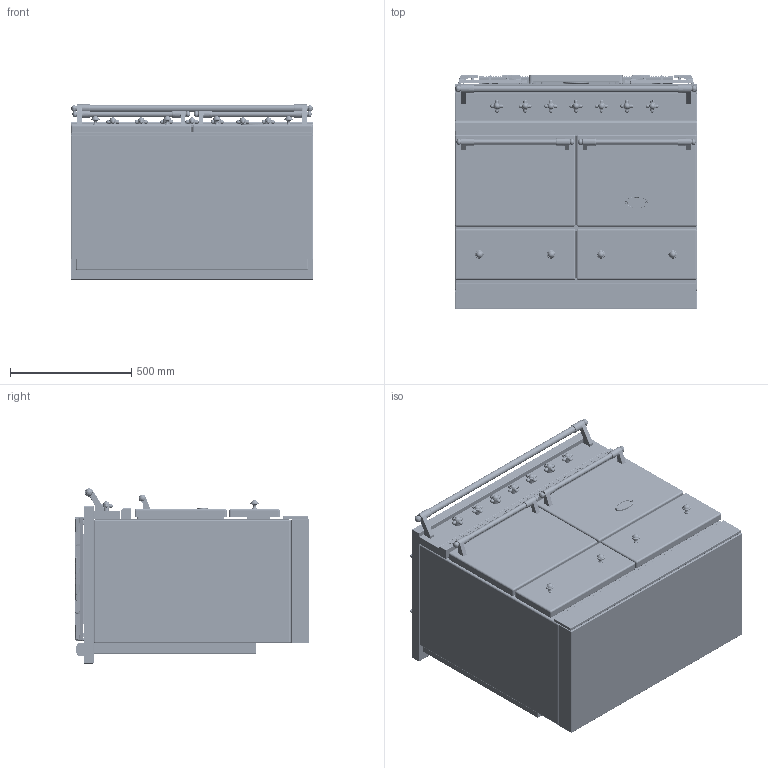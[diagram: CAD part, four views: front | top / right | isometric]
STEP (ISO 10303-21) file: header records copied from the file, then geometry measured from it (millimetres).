
FILE_DESCRIPTION((''),'2;1');
FILE_NAME('LCF1052_ASM','2021-12-01T15:19:23',('r.avril'),(''),'CREO PARAMETRIC BY PTC INC, 2017260','CREO PARAMETRIC BY PTC INC, 2017260','');
FILE_SCHEMA(('AP203_CONFIGURATION_CONTROLLED_3D_DESIGN_OF_MECHANICAL_PARTS_AND_ASSEMBLIES_MIM_LF { 1 0 10303 403 2 1 2 }'));
Products named in the file (27): BASE_EXPORT_CLUNY; 65650003; 65650004; 6531940; 6531941; 6538399; 1931942; 65080022_AF0; 6531942_ASM; 6531943; 65049009; 65650001; BASE_EXPORT_CLUNY_ASM; TABLE_1000_CLASSIQUE; 3KW; 5KW; 1_5KW; 4KW; 65062008; 65062012; 65149005; 90000549_ASM; 6537024; 90000487_ASM; CHEMINEE_2020_LG371_EXPORT_STEP; TABLE_1000_TRADITION_ASM; LCF1052_ASM
Assembly tree (47 placements, depth 4):
  LCF1052_ASM
    BASE_EXPORT_CLUNY_ASM
      BASE_EXPORT_CLUNY
      65650003
      65650004
      6531940  x2
      6531941  x2
      6531942_ASM  x7
        6538399
        1931942
        65080022_AF0
      6531943  x4
      65049009
      65650001
    TABLE_1000_TRADITION_ASM
      TABLE_1000_CLASSIQUE
      3KW  x2
      5KW
      1_5KW
      4KW
      90000549_ASM
        65062008
        65062012
        65149005  x4
      90000487_ASM  x2
        6537024
        65149005
      CHEMINEE_2020_LG371_EXPORT_STEP  x2
Bounding box: 1000 x 967 x 724 mm (x, y, z)
Volume: 532859291.5 mm3; surface area: 9150181.6 mm2
Topology: 65 solids, 75 shells, 8797 faces, 22792 edges, 14133 vertices
Faces by surface type: plane 4177, cylinder 2387, bspline 1004, torus 341, sphere 322, cone 316, extrusion 238, revolution 12
Entity records: 216626 total; most frequent: CARTESIAN_POINT 58349, ORIENTED_EDGE 26100, DIRECTION 23874, EDGE_CURVE 13060, PRESENTATION_STYLE_ASSIGNMENT 9423, STYLED_ITEM 9400, CURVE_STYLE 9200, VECTOR 8534
